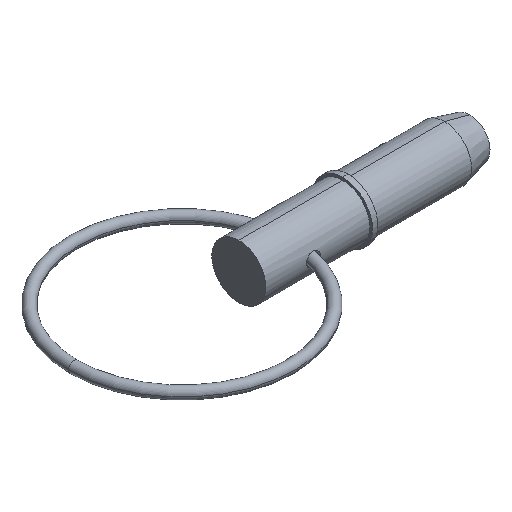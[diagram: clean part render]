
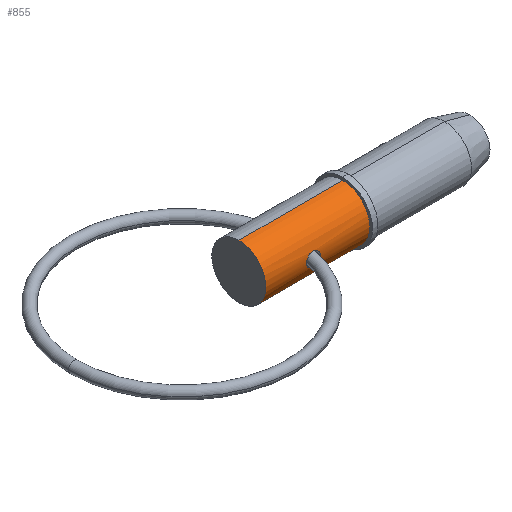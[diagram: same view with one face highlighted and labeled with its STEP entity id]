
A CAD part, isometric view. The second image highlights one B-rep face of the part: STEP entity #855.
In plain terms, the highlighted cylindrical face has radius 6.35 mm (diameter 12.7 mm), a partial arc.
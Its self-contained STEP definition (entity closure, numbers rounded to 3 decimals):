
#26 = CARTESIAN_POINT ( 'NONE',  ( 10.512, -6.19, -1.419 ) ) ;
#36 = CARTESIAN_POINT ( 'NONE',  ( 11.949, -6.184, 1.442 ) ) ;
#43 = CARTESIAN_POINT ( 'NONE',  ( 11.948, -6.184, -1.442 ) ) ;
#45 = CARTESIAN_POINT ( 'NONE',  ( 12.303, -6.233, 1.214 ) ) ;
#50 = DIRECTION ( 'NONE',  ( 1., 0., 0. ) ) ;
#64 = CARTESIAN_POINT ( 'NONE',  ( 12.85, -6.35, 0. ) ) ;
#94 = CARTESIAN_POINT ( 'NONE',  ( 12.22, -6.22, -1.28 ) ) ;
#114 = CYLINDRICAL_SURFACE ( 'NONE', #739, 6.35 ) ;
#117 = DIRECTION ( 'NONE',  ( 1., 0., 0. ) ) ;
#131 = CARTESIAN_POINT ( 'NONE',  ( 10.807, -6.161, 1.538 ) ) ;
#133 = CARTESIAN_POINT ( 'NONE',  ( 10.239, -6.225, -1.257 ) ) ;
#143 = B_SPLINE_CURVE_WITH_KNOTS ( 'NONE', 3,
 ( #763, #683, #947, #901, #219, #168, #544, #164, #419, #868, #733, #131, #303, #790, #1026, #36, #870, #777, #45, #295, #401, #315, #566, #254 ),
 .UNSPECIFIED., .F., .F.,
 ( 4, 2, 2, 2, 2, 2, 2, 2, 2, 2, 2, 4 ),
 ( 0.001, 0.001, 0.001, 0.002, 0.002, 0.002, 0.003, 0.004, 0.004, 0.004, 0.005, 0.006 ),
 .UNSPECIFIED. ) ;
#163 = CARTESIAN_POINT ( 'NONE',  ( 9.806, -6.3, -0.802 ) ) ;
#164 = CARTESIAN_POINT ( 'NONE',  ( 10.157, -6.237, 1.194 ) ) ;
#168 = CARTESIAN_POINT ( 'NONE',  ( 9.796, -6.301, 0.807 ) ) ;
#177 = CARTESIAN_POINT ( 'NONE',  ( 9.619, -6.339, -0.424 ) ) ;
#183 = DIRECTION ( 'NONE',  ( 0., 0., -1. ) ) ;
#195 = EDGE_LOOP ( 'NONE', ( #1016, #765 ) ) ;
#201 = CARTESIAN_POINT ( 'NONE',  ( 11.653, -6.157, -1.556 ) ) ;
#207 = VERTEX_POINT ( 'NONE', #959 ) ;
#219 = CARTESIAN_POINT ( 'NONE',  ( 9.663, -6.329, 0.52 ) ) ;
#254 = CARTESIAN_POINT ( 'NONE',  ( 12.85, -6.35, 0. ) ) ;
#257 = CARTESIAN_POINT ( 'NONE',  ( 12.529, -6.274, -0.992 ) ) ;
#260 = CIRCLE ( 'NONE', #1029, 6.35 ) ;
#266 = VERTEX_POINT ( 'NONE', #402 ) ;
#270 = CARTESIAN_POINT ( 'NONE',  ( 24.43, 0., 0. ) ) ;
#295 = CARTESIAN_POINT ( 'NONE',  ( 12.528, -6.274, 0.993 ) ) ;
#301 = CARTESIAN_POINT ( 'NONE',  ( 12.84, -6.347, -0.213 ) ) ;
#303 = CARTESIAN_POINT ( 'NONE',  ( 11.015, -6.15, 1.583 ) ) ;
#315 = CARTESIAN_POINT ( 'NONE',  ( 12.808, -6.339, 0.425 ) ) ;
#322 = CARTESIAN_POINT ( 'NONE',  ( 9.93, -6.276, -0.971 ) ) ;
#326 = DIRECTION ( 'NONE',  ( 1., 0., 0. ) ) ;
#338 = CARTESIAN_POINT ( 'NONE',  ( 0., 0., 0. ) ) ;
#369 = CARTESIAN_POINT ( 'NONE',  ( 10.156, -6.237, -1.193 ) ) ;
#376 = EDGE_LOOP ( 'NONE', ( #1020, #521, #967, #770 ) ) ;
#389 = CARTESIAN_POINT ( 'NONE',  ( 10.002, -6.263, -1.051 ) ) ;
#400 = CARTESIAN_POINT ( 'NONE',  ( 12.799, -6.337, -0.42 ) ) ;
#401 = CARTESIAN_POINT ( 'NONE',  ( 12.648, -6.301, 0.813 ) ) ;
#402 = CARTESIAN_POINT ( 'NONE',  ( 12.85, -6.35, 0. ) ) ;
#406 = B_SPLINE_CURVE_WITH_KNOTS ( 'NONE', 3,
 ( #64, #704, #301, #400, #982, #560, #257, #505, #94, #914, #43, #201, #424, #815, #511, #26, #702, #133, #369, #389, #322, #163, #665, #177, #746, #459 ),
 .UNSPECIFIED., .F., .F.,
 ( 4, 2, 2, 2, 2, 2, 2, 2, 2, 2, 2, 2, 4 ),
 ( 0.006, 0.006, 0.006, 0.007, 0.007, 0.008, 0.008, 0.009, 0.009, 0.009, 0.01, 0.01, 0.011 ),
 .UNSPECIFIED. ) ;
#419 = CARTESIAN_POINT ( 'NONE',  ( 10.241, -6.224, 1.259 ) ) ;
#424 = CARTESIAN_POINT ( 'NONE',  ( 11.439, -6.147, -1.592 ) ) ;
#448 = EDGE_CURVE ( 'NONE', #955, #540, #584, .T. ) ;
#459 = CARTESIAN_POINT ( 'NONE',  ( 9.57, -6.35, 0. ) ) ;
#463 = CARTESIAN_POINT ( 'NONE',  ( 24.43, 0., 6.35 ) ) ;
#502 = CIRCLE ( 'NONE', #644, 6.35 ) ;
#505 = CARTESIAN_POINT ( 'NONE',  ( 12.302, -6.233, -1.215 ) ) ;
#511 = CARTESIAN_POINT ( 'NONE',  ( 10.805, -6.162, -1.538 ) ) ;
#521 = ORIENTED_EDGE ( 'NONE', *, *, #905, .T. ) ;
#523 = CARTESIAN_POINT ( 'NONE',  ( 9.57, -6.35, 0. ) ) ;
#527 = FACE_BOUND ( 'NONE', #195, .T. ) ;
#540 = VERTEX_POINT ( 'NONE', #463 ) ;
#544 = CARTESIAN_POINT ( 'NONE',  ( 9.925, -6.276, 0.979 ) ) ;
#560 = CARTESIAN_POINT ( 'NONE',  ( 12.647, -6.301, -0.815 ) ) ;
#566 = CARTESIAN_POINT ( 'NONE',  ( 12.85, -6.35, 0.211 ) ) ;
#572 = LINE ( 'NONE', #894, #964 ) ;
#581 = DIRECTION ( 'NONE',  ( 1., 0., 0. ) ) ;
#584 = LINE ( 'NONE', #819, #979 ) ;
#619 = EDGE_CURVE ( 'NONE', #266, #791, #406, .T. ) ;
#627 = EDGE_CURVE ( 'NONE', #540, #207, #502, .T. ) ;
#629 = VERTEX_POINT ( 'NONE', #834 ) ;
#641 = EDGE_CURVE ( 'NONE', #791, #266, #143, .T. ) ;
#644 = AXIS2_PLACEMENT_3D ( 'NONE', #270, #50, #997 ) ;
#665 = CARTESIAN_POINT ( 'NONE',  ( 9.752, -6.311, -0.712 ) ) ;
#683 = CARTESIAN_POINT ( 'NONE',  ( 9.57, -6.35, 0.106 ) ) ;
#702 = CARTESIAN_POINT ( 'NONE',  ( 10.417, -6.201, -1.37 ) ) ;
#704 = CARTESIAN_POINT ( 'NONE',  ( 12.85, -6.35, -0.106 ) ) ;
#733 = CARTESIAN_POINT ( 'NONE',  ( 10.512, -6.19, 1.419 ) ) ;
#739 = AXIS2_PLACEMENT_3D ( 'NONE', #757, #991, #183 ) ;
#746 = CARTESIAN_POINT ( 'NONE',  ( 9.57, -6.35, -0.213 ) ) ;
#757 = CARTESIAN_POINT ( 'NONE',  ( 0., 0., 0. ) ) ;
#763 = CARTESIAN_POINT ( 'NONE',  ( 9.57, -6.35, 0. ) ) ;
#765 = ORIENTED_EDGE ( 'NONE', *, *, #619, .T. ) ;
#770 = ORIENTED_EDGE ( 'NONE', *, *, #627, .F. ) ;
#777 = CARTESIAN_POINT ( 'NONE',  ( 12.22, -6.22, 1.28 ) ) ;
#790 = CARTESIAN_POINT ( 'NONE',  ( 11.442, -6.147, 1.592 ) ) ;
#791 = VERTEX_POINT ( 'NONE', #523 ) ;
#815 = CARTESIAN_POINT ( 'NONE',  ( 11.017, -6.15, -1.582 ) ) ;
#819 = CARTESIAN_POINT ( 'NONE',  ( 0., 0., 6.35 ) ) ;
#834 = CARTESIAN_POINT ( 'NONE',  ( 0., 0., -6.35 ) ) ;
#855 = ADVANCED_FACE ( 'NONE', ( #1009, #527 ), #114, .T. ) ;
#868 = CARTESIAN_POINT ( 'NONE',  ( 10.419, -6.201, 1.371 ) ) ;
#870 = CARTESIAN_POINT ( 'NONE',  ( 12.043, -6.195, 1.394 ) ) ;
#878 = CARTESIAN_POINT ( 'NONE',  ( 0., 0., 6.35 ) ) ;
#894 = CARTESIAN_POINT ( 'NONE',  ( 0., 0., -6.35 ) ) ;
#901 = CARTESIAN_POINT ( 'NONE',  ( 9.628, -6.337, 0.418 ) ) ;
#905 = EDGE_CURVE ( 'NONE', #955, #629, #260, .T. ) ;
#914 = CARTESIAN_POINT ( 'NONE',  ( 12.044, -6.195, -1.393 ) ) ;
#915 = EDGE_CURVE ( 'NONE', #629, #207, #572, .T. ) ;
#947 = CARTESIAN_POINT ( 'NONE',  ( 9.582, -6.347, 0.211 ) ) ;
#955 = VERTEX_POINT ( 'NONE', #878 ) ;
#959 = CARTESIAN_POINT ( 'NONE',  ( 24.43, 0., -6.35 ) ) ;
#964 = VECTOR ( 'NONE', #581, 1000. ) ;
#967 = ORIENTED_EDGE ( 'NONE', *, *, #915, .T. ) ;
#972 = DIRECTION ( 'NONE',  ( 0., 0., -1. ) ) ;
#979 = VECTOR ( 'NONE', #117, 1000. ) ;
#982 = CARTESIAN_POINT ( 'NONE',  ( 12.768, -6.329, -0.521 ) ) ;
#991 = DIRECTION ( 'NONE',  ( 1., 0., 0. ) ) ;
#997 = DIRECTION ( 'NONE',  ( 0., 0., -1. ) ) ;
#1009 = FACE_OUTER_BOUND ( 'NONE', #376, .T. ) ;
#1016 = ORIENTED_EDGE ( 'NONE', *, *, #641, .T. ) ;
#1020 = ORIENTED_EDGE ( 'NONE', *, *, #448, .F. ) ;
#1026 = CARTESIAN_POINT ( 'NONE',  ( 11.652, -6.157, 1.556 ) ) ;
#1029 = AXIS2_PLACEMENT_3D ( 'NONE', #338, #326, #972 ) ;
